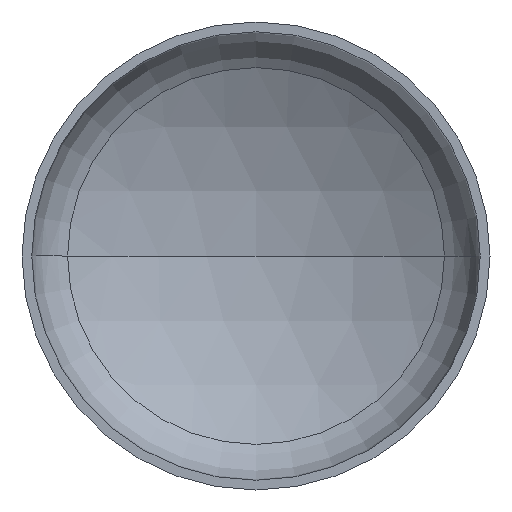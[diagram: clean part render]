
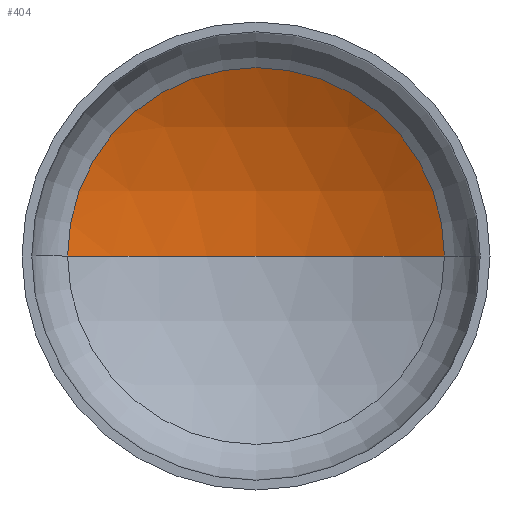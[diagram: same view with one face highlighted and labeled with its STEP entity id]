
A CAD part, front view. The second image highlights one B-rep face of the part: STEP entity #404.
In plain terms, the highlighted spherical face has radius 1920 mm.
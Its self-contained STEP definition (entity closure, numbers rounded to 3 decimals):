
#13 = EDGE_LOOP ( 'NONE', ( #62, #25, #51 ) ) ;
#14 = AXIS2_PLACEMENT_3D ( 'NONE', #316, #335, #189 ) ;
#23 = AXIS2_PLACEMENT_3D ( 'NONE', #155, #153, #154 ) ;
#25 = ORIENTED_EDGE ( 'NONE', *, *, #373, .T. ) ;
#51 = ORIENTED_EDGE ( 'NONE', *, *, #315, .T. ) ;
#55 = CIRCLE ( 'NONE', #14, 1920. ) ;
#56 = VERTEX_POINT ( 'NONE', #230 ) ;
#62 = ORIENTED_EDGE ( 'NONE', *, *, #342, .F. ) ;
#69 = VERTEX_POINT ( 'NONE', #245 ) ;
#94 = DIRECTION ( 'NONE',  ( 0., 0., -1. ) ) ;
#103 = VERTEX_POINT ( 'NONE', #225 ) ;
#109 = DIRECTION ( 'NONE',  ( 0., 0., -1. ) ) ;
#153 = DIRECTION ( 'NONE',  ( 0., -1., 0. ) ) ;
#154 = DIRECTION ( 'NONE',  ( 1., 0., 0. ) ) ;
#155 = CARTESIAN_POINT ( 'NONE',  ( 0., 469.737, 0. ) ) ;
#159 = SPHERICAL_SURFACE ( 'NONE', #400, 1920. ) ;
#167 = CIRCLE ( 'NONE', #283, 1920. ) ;
#189 = DIRECTION ( 'NONE',  ( 1., 0., 0. ) ) ;
#214 = DIRECTION ( 'NONE',  ( -1., 0., 0. ) ) ;
#225 = CARTESIAN_POINT ( 'NONE',  ( 966.194, 469.737, 0. ) ) ;
#230 = CARTESIAN_POINT ( 'NONE',  ( 0., 730.56, 0. ) ) ;
#237 = CARTESIAN_POINT ( 'NONE',  ( 0., -1189.44, 0. ) ) ;
#244 = CIRCLE ( 'NONE', #23, 966.194 ) ;
#245 = CARTESIAN_POINT ( 'NONE',  ( -966.194, 469.737, 0. ) ) ;
#264 = CARTESIAN_POINT ( 'NONE',  ( 0., -1189.44, 0. ) ) ;
#283 = AXIS2_PLACEMENT_3D ( 'NONE', #264, #94, #288 ) ;
#286 = FACE_OUTER_BOUND ( 'NONE', #13, .T. ) ;
#288 = DIRECTION ( 'NONE',  ( -1., 0., 0. ) ) ;
#315 = EDGE_CURVE ( 'NONE', #103, #69, #244, .T. ) ;
#316 = CARTESIAN_POINT ( 'NONE',  ( 0., -1189.44, 0. ) ) ;
#335 = DIRECTION ( 'NONE',  ( 0., 0., 1. ) ) ;
#342 = EDGE_CURVE ( 'NONE', #56, #69, #55, .T. ) ;
#373 = EDGE_CURVE ( 'NONE', #56, #103, #167, .T. ) ;
#400 = AXIS2_PLACEMENT_3D ( 'NONE', #237, #109, #214 ) ;
#404 = ADVANCED_FACE ( 'NONE', ( #286 ), #159, .F. ) ;
